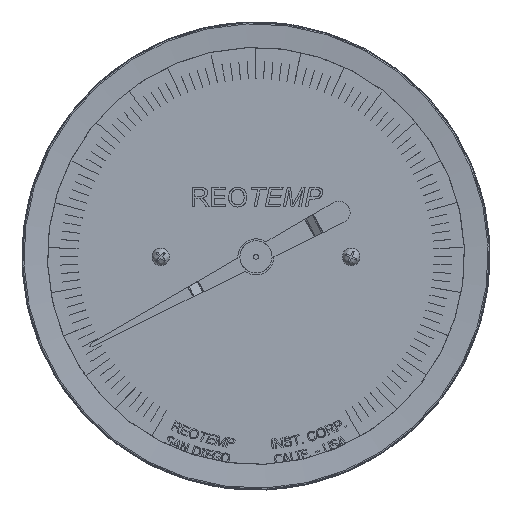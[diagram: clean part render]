
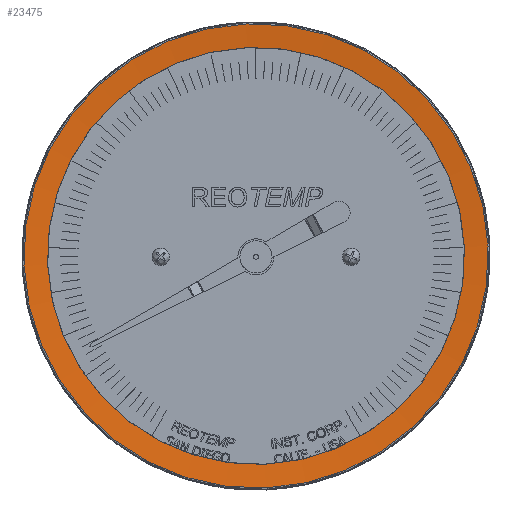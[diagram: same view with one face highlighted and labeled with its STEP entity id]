
A CAD part, top view. The second image highlights one B-rep face of the part: STEP entity #23475.
In plain terms, the highlighted conical face has half-angle 85 degrees and reference radius 48.017 mm.
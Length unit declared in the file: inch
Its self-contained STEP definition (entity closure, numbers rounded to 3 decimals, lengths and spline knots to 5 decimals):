
#8444=FACE_BOUND($,#10061,.T.);
#8703=CIRCLE($,#24802,1.78175);
#8704=CIRCLE($,#24804,1.98369);
#8776=FACE_OUTER_BOUND($,#10060,.T.);
#10060=EDGE_LOOP($,(#17079));
#10061=EDGE_LOOP($,(#17080));
#11592=VERTEX_POINT($,#31063);
#11593=VERTEX_POINT($,#31066);
#13774=EDGE_CURVE($,#11592,#11592,#8703,.T.);
#13775=EDGE_CURVE($,#11593,#11593,#8704,.T.);
#17079=ORIENTED_EDGE($,*,*,#13775,.F.);
#17080=ORIENTED_EDGE($,*,*,#13774,.F.);
#23438=CONICAL_SURFACE($,#24803,1.89042,85.);
#23475=ADVANCED_FACE($,(#8776,#8444),#23438,.F.);
#24802=AXIS2_PLACEMENT_3D($,#31064,#26030,#26031);
#24803=AXIS2_PLACEMENT_3D($,#31065,#26032,#26033);
#24804=AXIS2_PLACEMENT_3D($,#31067,#26034,#26035);
#26030=DIRECTION('center_axis',(0.,0.,
1.));
#26031=DIRECTION('ref_axis',(-0.991,0.131,0.));
#26032=DIRECTION('center_axis',(0.,0.,
1.));
#26033=DIRECTION('ref_axis',(0.991,-0.131,0.));
#26034=DIRECTION('center_axis',(0.,0.,
-1.));
#26035=DIRECTION('ref_axis',(-0.991,0.131,0.));
#31063=CARTESIAN_POINT('',(9.50124,1.60511,6.3662));
#31064=CARTESIAN_POINT('Origin',(7.73493,1.83921,6.3662));
#31065=CARTESIAN_POINT('Origin',(7.73493,1.83921,6.37571));
#31066=CARTESIAN_POINT('',(9.70143,1.57858,6.38387));
#31067=CARTESIAN_POINT('Origin',(7.73493,1.83921,6.38387));
